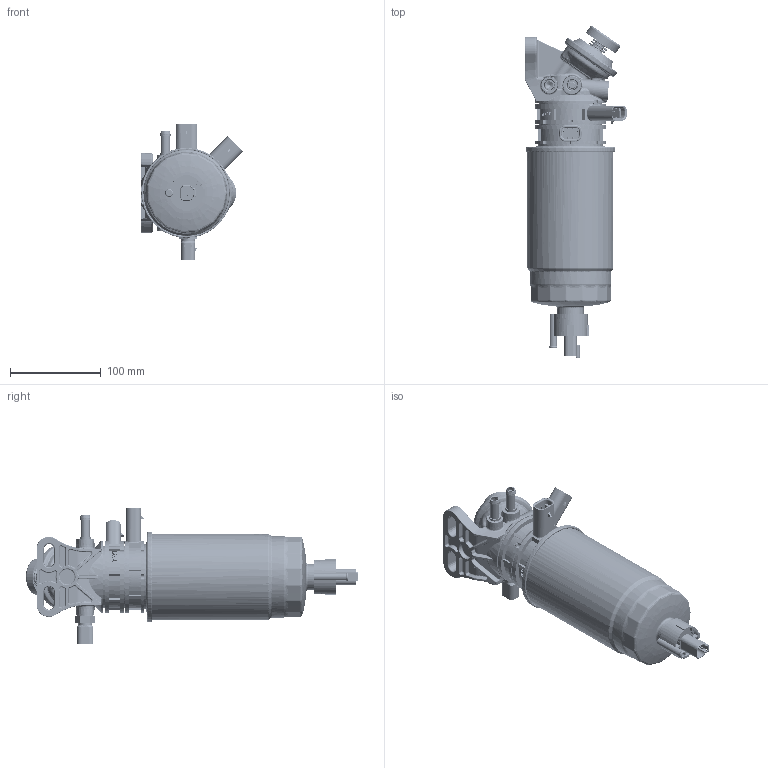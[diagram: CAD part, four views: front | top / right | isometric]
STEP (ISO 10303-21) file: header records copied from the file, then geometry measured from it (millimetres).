
FILE_DESCRIPTION(('CATIA V6 STEP','CAx-IF Rec.Pracs.--- Composite Materials ---3.4---2017-06-13'),'2;1');
FILE_NAME('\\?\D:\OneDrive - HDI\FIE\Filter\Stage5\parker_main filter\사외판매 전달3d_230329\400403-00617C 00 FILTER ASSY,FUELCOALESER TYPE Released M.stp','2023-03-29T04:47:23+00:00',('none'),('none'),'3DEXPERIENCE Platform3DEXPERIENCE R2021x HotFix 10','3DEXPERIENCE Platform STEP AP203 v2','none');
FILE_SCHEMA(('CONFIG_CONTROL_DESIGN'));
Length unit declared in the file: millimetre
Assembly tree (3 placements, depth 0):
Bounding box: 112.23 x 365.67 x 150.1 mm (x, y, z)
Volume: 168754.9 mm3; surface area: 522571.6 mm2
Topology: 4 solids, 37 shells, 11118 faces, 31259 edges, 20618 vertices
Faces by surface type: plane 6385, cylinder 2501, bspline 819, torus 766, cone 377, sphere 270
Entity records: 404768 total; most frequent: CARTESIAN_POINT 136490, ORIENTED_EDGE 62294, DIRECTION 43701, EDGE_CURVE 31175, VERTEX_POINT 20616, VECTOR 17533, LINE 17533, AXIS2_PLACEMENT_3D 15994
